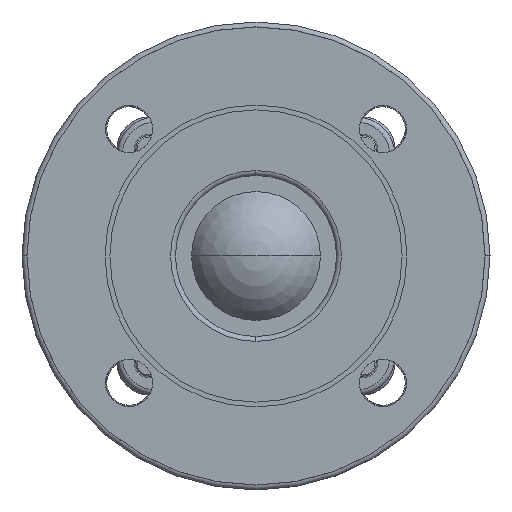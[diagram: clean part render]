
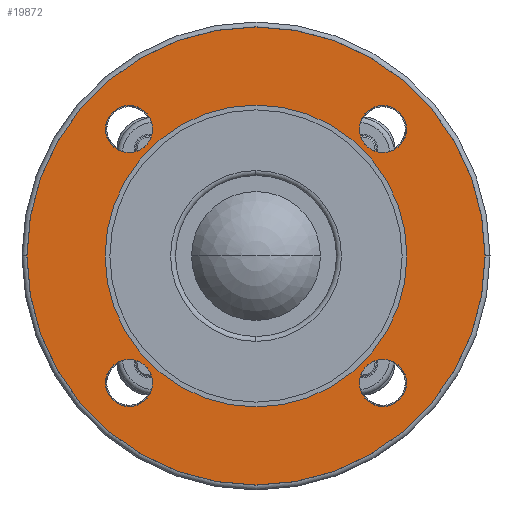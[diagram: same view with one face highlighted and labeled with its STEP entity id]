
A CAD part, left-side view. The second image highlights one B-rep face of the part: STEP entity #19872.
In plain terms, the highlighted planar face has unit normal (-1, 0, 0).
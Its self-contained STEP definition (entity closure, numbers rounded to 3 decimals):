
#5145=CARTESIAN_POINT('',(-229.,0.,0.));
#5146=DIRECTION('',(1.,0.,0.));
#5147=DIRECTION('',(0.,0.,-1.));
#5148=AXIS2_PLACEMENT_3D('',#5145,#5146,#5147);
#5150=CARTESIAN_POINT('',(-229.,0.,0.));
#5151=DIRECTION('',(1.,0.,0.));
#5152=DIRECTION('',(0.,0.,1.));
#5153=AXIS2_PLACEMENT_3D('',#5150,#5151,#5152);
#5155=CARTESIAN_POINT('',(-229.,0.,0.));
#5156=DIRECTION('',(-1.,0.,0.));
#5157=DIRECTION('',(0.,0.,-1.));
#5158=AXIS2_PLACEMENT_3D('',#5155,#5156,#5157);
#5160=CARTESIAN_POINT('',(-229.,0.,0.));
#5161=DIRECTION('',(-1.,0.,0.));
#5162=DIRECTION('',(0.,0.,1.));
#5163=AXIS2_PLACEMENT_3D('',#5160,#5161,#5162);
#5165=CARTESIAN_POINT('',(-229.,51.265,-51.265));
#5166=DIRECTION('',(-1.,0.,0.));
#5167=DIRECTION('',(0.,0.,1.));
#5168=AXIS2_PLACEMENT_3D('',#5165,#5166,#5167);
#5170=CARTESIAN_POINT('',(-229.,51.265,-51.265));
#5171=DIRECTION('',(-1.,0.,0.));
#5172=DIRECTION('',(0.,0.,-1.));
#5173=AXIS2_PLACEMENT_3D('',#5170,#5171,#5172);
#5175=CARTESIAN_POINT('',(-229.,51.265,51.265));
#5176=DIRECTION('',(-1.,0.,0.));
#5177=DIRECTION('',(0.,-1.,0.));
#5178=AXIS2_PLACEMENT_3D('',#5175,#5176,#5177);
#5180=CARTESIAN_POINT('',(-229.,51.265,51.265));
#5181=DIRECTION('',(-1.,0.,0.));
#5182=DIRECTION('',(0.,1.,0.));
#5183=AXIS2_PLACEMENT_3D('',#5180,#5181,#5182);
#5185=CARTESIAN_POINT('',(-229.,-51.265,51.265));
#5186=DIRECTION('',(-1.,0.,0.));
#5187=DIRECTION('',(0.,0.,-1.));
#5188=AXIS2_PLACEMENT_3D('',#5185,#5186,#5187);
#5190=CARTESIAN_POINT('',(-229.,-51.265,51.265));
#5191=DIRECTION('',(-1.,0.,0.));
#5192=DIRECTION('',(0.,0.,1.));
#5193=AXIS2_PLACEMENT_3D('',#5190,#5191,#5192);
#5195=CARTESIAN_POINT('',(-229.,-51.265,-51.265));
#5196=DIRECTION('',(-1.,0.,0.));
#5197=DIRECTION('',(0.,1.,0.));
#5198=AXIS2_PLACEMENT_3D('',#5195,#5196,#5197);
#5200=CARTESIAN_POINT('',(-229.,-51.265,-51.265));
#5201=DIRECTION('',(-1.,0.,0.));
#5202=DIRECTION('',(0.,-1.,0.));
#5203=AXIS2_PLACEMENT_3D('',#5200,#5201,#5202);
#11221=CARTESIAN_POINT('',(-229.,0.,60.95));
#11222=VERTEX_POINT('',#11221);
#11223=CARTESIAN_POINT('',(-229.,0.,-60.95));
#11224=VERTEX_POINT('',#11223);
#11225=CARTESIAN_POINT('',(-229.,0.,-92.5));
#11226=CARTESIAN_POINT('',(-229.,0.,92.5));
#11227=VERTEX_POINT('',#11225);
#11228=VERTEX_POINT('',#11226);
#11229=CARTESIAN_POINT('',(-229.,51.265,-41.765));
#11230=CARTESIAN_POINT('',(-229.,51.265,-60.765));
#11231=VERTEX_POINT('',#11229);
#11232=VERTEX_POINT('',#11230);
#11233=CARTESIAN_POINT('',(-229.,41.765,51.265));
#11234=CARTESIAN_POINT('',(-229.,60.765,51.265));
#11235=VERTEX_POINT('',#11233);
#11236=VERTEX_POINT('',#11234);
#11237=CARTESIAN_POINT('',(-229.,-51.265,41.765));
#11238=CARTESIAN_POINT('',(-229.,-51.265,60.765));
#11239=VERTEX_POINT('',#11237);
#11240=VERTEX_POINT('',#11238);
#11241=CARTESIAN_POINT('',(-229.,-41.765,-51.265));
#11242=CARTESIAN_POINT('',(-229.,-60.765,-51.265));
#11243=VERTEX_POINT('',#11241);
#11244=VERTEX_POINT('',#11242);
#19833=CARTESIAN_POINT('',(-229.,0.,0.));
#19834=DIRECTION('',(1.,0.,0.));
#19835=DIRECTION('',(0.,0.,-1.));
#19836=AXIS2_PLACEMENT_3D('',#19833,#19834,#19835);
#19837=PLANE('',#19836);
#19838=ORIENTED_EDGE('',*,*,#19826,.T.);
#19839=ORIENTED_EDGE('',*,*,#19815,.T.);
#19840=EDGE_LOOP('',(#19838,#19839));
#19841=FACE_OUTER_BOUND('',#19840,.F.);
#19843=ORIENTED_EDGE('',*,*,#19842,.T.);
#19845=ORIENTED_EDGE('',*,*,#19844,.T.);
#19846=EDGE_LOOP('',(#19843,#19845));
#19847=FACE_BOUND('',#19846,.F.);
#19849=ORIENTED_EDGE('',*,*,#19848,.T.);
#19851=ORIENTED_EDGE('',*,*,#19850,.T.);
#19852=EDGE_LOOP('',(#19849,#19851));
#19853=FACE_BOUND('',#19852,.F.);
#19855=ORIENTED_EDGE('',*,*,#19854,.T.);
#19857=ORIENTED_EDGE('',*,*,#19856,.T.);
#19858=EDGE_LOOP('',(#19855,#19857));
#19859=FACE_BOUND('',#19858,.F.);
#19861=ORIENTED_EDGE('',*,*,#19860,.T.);
#19863=ORIENTED_EDGE('',*,*,#19862,.T.);
#19864=EDGE_LOOP('',(#19861,#19863));
#19865=FACE_BOUND('',#19864,.F.);
#19867=ORIENTED_EDGE('',*,*,#19866,.T.);
#19869=ORIENTED_EDGE('',*,*,#19868,.T.);
#19870=EDGE_LOOP('',(#19867,#19869));
#19871=FACE_BOUND('',#19870,.F.);
#19872=ADVANCED_FACE('',(#19841,#19847,#19853,#19859,#19865,#19871),#19837,.F.);
#5149=CIRCLE('',#5148,92.5);
#5154=CIRCLE('',#5153,92.5);
#5159=CIRCLE('',#5158,60.95);
#5164=CIRCLE('',#5163,60.95);
#5169=CIRCLE('',#5168,9.5);
#5174=CIRCLE('',#5173,9.5);
#5179=CIRCLE('',#5178,9.5);
#5184=CIRCLE('',#5183,9.5);
#5189=CIRCLE('',#5188,9.5);
#5194=CIRCLE('',#5193,9.5);
#5199=CIRCLE('',#5198,9.5);
#5204=CIRCLE('',#5203,9.5);
#19815=EDGE_CURVE('',#11228,#11227,#5154,.T.);
#19826=EDGE_CURVE('',#11227,#11228,#5149,.T.);
#19842=EDGE_CURVE('',#11224,#11222,#5159,.T.);
#19844=EDGE_CURVE('',#11222,#11224,#5164,.T.);
#19848=EDGE_CURVE('',#11231,#11232,#5169,.T.);
#19850=EDGE_CURVE('',#11232,#11231,#5174,.T.);
#19854=EDGE_CURVE('',#11235,#11236,#5179,.T.);
#19856=EDGE_CURVE('',#11236,#11235,#5184,.T.);
#19860=EDGE_CURVE('',#11239,#11240,#5189,.T.);
#19862=EDGE_CURVE('',#11240,#11239,#5194,.T.);
#19866=EDGE_CURVE('',#11243,#11244,#5199,.T.);
#19868=EDGE_CURVE('',#11244,#11243,#5204,.T.);
